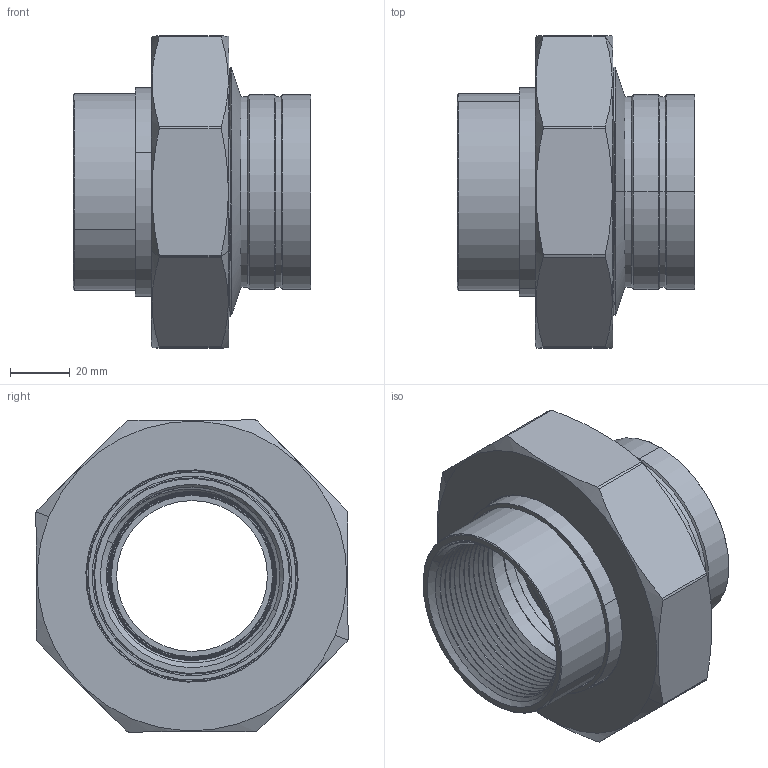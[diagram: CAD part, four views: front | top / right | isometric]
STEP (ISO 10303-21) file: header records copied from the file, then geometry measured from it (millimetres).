
FILE_DESCRIPTION (( 'STEP AP203' ), '1' );
FILE_NAME ('701-408.STEP', '2022-03-30T04:31:19', ( '' ), ( '' ), 'SwSTEP 2.0', 'SolidWorks 2012', '' );
FILE_SCHEMA (( 'CONFIG_CONTROL_DESIGN' ));
Length unit declared in the file: millimetre
Products named in the file (6): 701-408; 铁内牙接头（放在尼龙隔套里面）; 内牙接头（网纹滚花）; 菜え; 鞠褒簽; 呿蹋杶
Assembly tree (5 placements, depth 2):
  701-408
    鞠褒簽
    菜え
    呿蹋杶
    内牙接头（网纹滚花）
    铁内牙接头（放在尼龙隔套里面）
Bounding box: 79.8 x 104.74 x 104.74 mm (x, y, z)
Volume: 212635.4 mm3; surface area: 91701.7 mm2
Topology: 5 solids, 5 shells, 192 faces, 489 edges, 313 vertices
Faces by surface type: cone 84, cylinder 67, plane 27, bspline 8, torus 6
Entity records: 19168 total; most frequent: CARTESIAN_POINT 14232, ORIENTED_EDGE 978, DIRECTION 815, EDGE_CURVE 489, AXIS2_PLACEMENT_3D 324, VERTEX_POINT 313, EDGE_LOOP 208, ADVANCED_FACE 192
